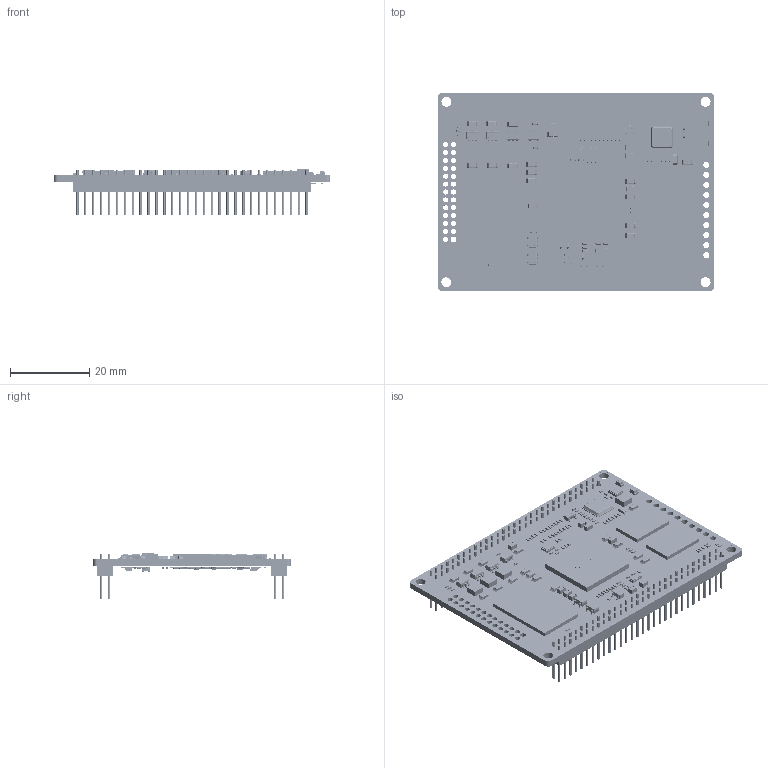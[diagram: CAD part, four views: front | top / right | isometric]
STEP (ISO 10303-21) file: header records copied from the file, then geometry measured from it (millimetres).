
FILE_DESCRIPTION((''),'2;1');
FILE_NAME('MYC-C335X-GOPOWR_V10_ASM','2023-10-09T11:08:29',('89233'),(''),'CREO PARAMETRIC BY PTC INC, 2023073','CREO PARAMETRIC BY PTC INC, 2023073','');
FILE_SCHEMA(('AUTOMOTIVE_DESIGN { 1 0 10303 214 1 1 1 1 }'));
Products named in the file (56): MYC-C335X-GOPOWR_V10-PCB; USER_LIBRARY-SOT-23-5_PIN_SOT_S; USER_LIBRARY-SOT-23-5_BODY_SOT2; USER_LIBRARY-SOT-23-5_ASM_2_ASM_ASM; SOT23-5_ASM_2_ASM_4_ASM; SOT23-5_ASM; SW3DPS-LED805R-1_7; LED0805_ASM_7_ASM; LED0805_ASM; PIN1_1; PIN2_1; CHIP_1; L0805_1_ASM_1_ASM; L0805_ASM_1_ASM; L0805_ASM; QFN40-6X6_1; QFN40-0_4_ASM; NONE-58140_6; NONE-58141_6; NONE-58142_6; NONE-58143_6; SOT-23-3_ASM_6_ASM; SOT-23_ASM; PIN1-20957_2_4; PIN2-20958_2_4; PIN3_2_4; PIN4_2_4; CHIP-20961_2_4; OSCCC320X250X80L90X100_ASM_2_AS_ASM; 3225_ASM_2_ASM_4_ASM; SMD3225_ASM; R0402-46893_6; R0402-408477_ASM_6_ASM; R0402_ASM; NONE-58127_AF0_6; 1_11__8; NONE-58129_6; NONE-58130_AF0_6; C0402-1_AF0_ASM_8_ASM; C0402_ASM_9_ASM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
Assembly tree (334 placements, depth 7):
  MYC-C335X-GOPOWR_V10_ASM
    MYC-C335X-GOPOWR_V10_1_ASM
      MYC-C335X-GOPOWR_V10-PCB
      MYC-C335X-GOPOWR_ASM
        SOT23-5_ASM  x6
          SOT23-5_ASM_2_ASM_4_ASM
            USER_LIBRARY-SOT-23-5_ASM_2_ASM_ASM
              USER_LIBRARY-SOT-23-5_PIN_SOT_S  x5
              USER_LIBRARY-SOT-23-5_BODY_SOT2
        LED0805_ASM  x2
          LED0805_ASM_7_ASM
            SW3DPS-LED805R-1_7
        L0805_ASM  x10
          L0805_ASM_1_ASM
            L0805_1_ASM_1_ASM
              PIN1_1
              PIN2_1
              CHIP_1
        QFN40-0_4_ASM
          QFN40-6X6_1
        SOT-23_ASM  x5
          SOT-23-3_ASM_6_ASM
            NONE-58140_6
            NONE-58141_6
            NONE-58142_6
            NONE-58143_6
        SMD3225_ASM  x2
          3225_ASM_2_ASM_4_ASM
            OSCCC320X250X80L90X100_ASM_2_AS_ASM
              PIN1-20957_2_4
              PIN2-20958_2_4
              PIN3_2_4
              PIN4_2_4
              CHIP-20961_2_4
        R0402_ASM  x121
          R0402-408477_ASM_6_ASM
            R0402-46893_6
        C0402_ASM  x115
          C0402_ASM_9_ASM
            C0402-1_AF0_ASM_8_ASM
              NONE-58127_AF0_6
              1_11__8
              NONE-58129_6
              NONE-58130_AF0_6
        C0805_ASM  x21
          C0805-38575_ASM_4_ASM
            _1-45825_4
            WRAP1-45826_4
            USER_LIBRARY-0805_CAP-1-SOLID_1
            PART8_ASSEM4-1-SOLID2_1_4
        3215_ASM
          3215_ASM_2_ASM_4_ASM
            SOLID_2_4
        BOT
        CONN2X30-2_00  x2
        BGA324
Bounding box: 70 x 50 x 11.4 mm (x, y, z)
Volume: 7955.1 mm3; surface area: 13611.2 mm2
Topology: 748 solids, 769 shells, 20918 faces, 67019 edges, 51433 vertices
Faces by surface type: plane 11964, cylinder 4601, bspline 2455, sphere 908, torus 564, extrusion 424, cone 2
Entity records: 139773 total; most frequent: CARTESIAN_POINT 24221, DIRECTION 17003, PRESENTATION_STYLE_ASSIGNMENT 10758, STYLED_ITEM 10193, CURVE_STYLE 10073, ORIENTED_EDGE 7771, VECTOR 6832, LINE 6732
